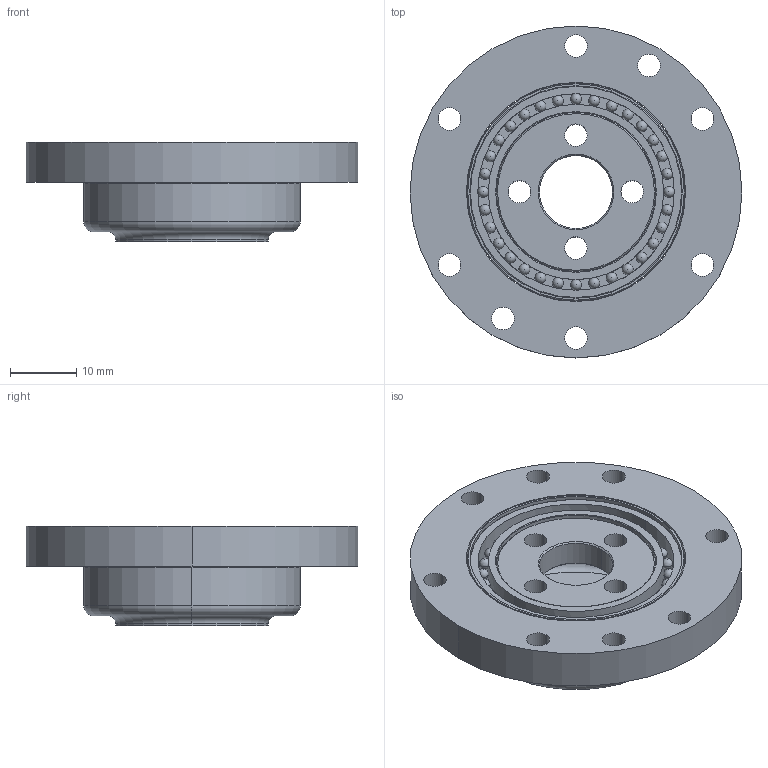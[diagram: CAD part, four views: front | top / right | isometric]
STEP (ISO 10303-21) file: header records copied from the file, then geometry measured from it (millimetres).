
FILE_DESCRIPTION (( 'STEP AP203' ), '1' );
FILE_NAME ('SKT 12-100.STEP', '2022-02-20T15:16:27', ( '' ), ( '' ), 'SwSTEP 2.0', 'SolidWorks 2018', '' );
FILE_SCHEMA (( 'CONFIG_CONTROL_DESIGN' ));
Length unit declared in the file: millimetre
Products named in the file (5): PGK21-100-04; PGK21-100-03; SKT 12-100; PGK 11-100-01; PGK 11-100-02
Assembly tree (4 placements, depth 2):
  SKT 12-100
    PGK21-100-04
    PGK21-100-03
    PGK 11-100-01
    PGK 11-100-02
Bounding box: 50 x 50 x 15 mm (x, y, z)
Volume: 9716.1 mm3; surface area: 12023.3 mm2
Topology: 4 solids, 4 shells, 168 faces, 706 edges, 482 vertices
Faces by surface type: sphere 64, cylinder 64, torus 18, plane 12, bspline 6, cone 4
Entity records: 10825 total; most frequent: CARTESIAN_POINT 5455, ORIENTED_EDGE 1036, DIRECTION 1000, EDGE_CURVE 518, AXIS2_PLACEMENT_3D 463, VERTEX_POINT 358, CIRCLE 294, EDGE_LOOP 280
